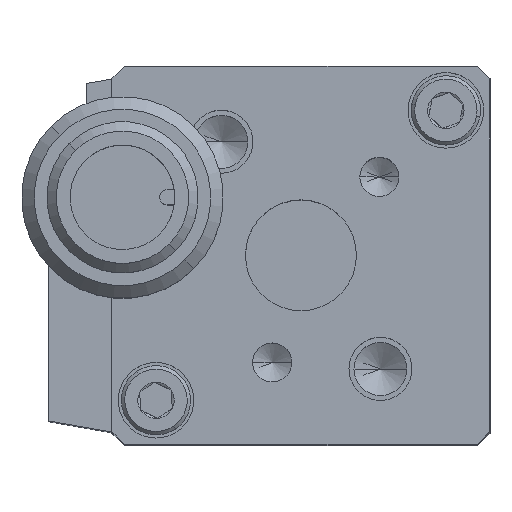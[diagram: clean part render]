
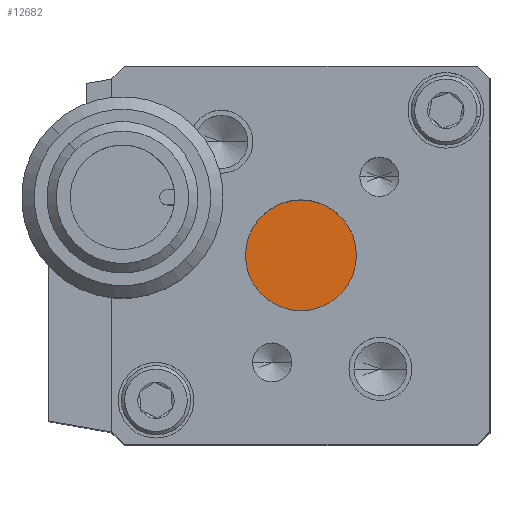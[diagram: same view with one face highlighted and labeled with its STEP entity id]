
A CAD part, top view. The second image highlights one B-rep face of the part: STEP entity #12682.
In plain terms, the highlighted planar face has unit normal (0, 0, 1).
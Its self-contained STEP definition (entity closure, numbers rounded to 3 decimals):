
#1544 = DIRECTION ( 'NONE',  ( 0., 0., -1. ) ) ;
#5225 = VERTEX_POINT ( 'NONE', #10600 ) ;
#10600 = CARTESIAN_POINT ( 'NONE',  ( -64.972, -10.575, 66.567 ) ) ;
#12682 = ADVANCED_FACE ( 'NONE', ( #102032 ), #42950, .F. ) ;
#16490 = DIRECTION ( 'NONE',  ( -1., 0., 0. ) ) ;
#20573 = AXIS2_PLACEMENT_3D ( 'NONE', #57995, #91695, #80702 ) ;
#21892 = VERTEX_POINT ( 'NONE', #109064 ) ;
#22843 = EDGE_CURVE ( 'NONE', #21892, #5225, #101708, .T. ) ;
#32824 = ORIENTED_EDGE ( 'NONE', *, *, #22843, .T. ) ;
#42732 = CIRCLE ( 'NONE', #48097, 4.4 ) ;
#42950 = PLANE ( 'NONE',  #78365 ) ;
#48097 = AXIS2_PLACEMENT_3D ( 'NONE', #60964, #52149, #78099 ) ;
#52149 = DIRECTION ( 'NONE',  ( 0., 0., 1. ) ) ;
#54553 = EDGE_CURVE ( 'NONE', #5225, #21892, #42732, .T. ) ;
#57995 = CARTESIAN_POINT ( 'NONE',  ( -60.572, -10.575, 66.567 ) ) ;
#60964 = CARTESIAN_POINT ( 'NONE',  ( -60.572, -10.575, 66.567 ) ) ;
#68563 = EDGE_LOOP ( 'NONE', ( #32824, #108406 ) ) ;
#75007 = CARTESIAN_POINT ( 'NONE',  ( -60.572, -10.575, 66.567 ) ) ;
#78099 = DIRECTION ( 'NONE',  ( 1., 0., 0. ) ) ;
#78365 = AXIS2_PLACEMENT_3D ( 'NONE', #75007, #1544, #16490 ) ;
#80702 = DIRECTION ( 'NONE',  ( 1., 0., 0. ) ) ;
#91695 = DIRECTION ( 'NONE',  ( 0., 0., 1. ) ) ;
#101708 = CIRCLE ( 'NONE', #20573, 4.4 ) ;
#102032 = FACE_OUTER_BOUND ( 'NONE', #68563, .T. ) ;
#108406 = ORIENTED_EDGE ( 'NONE', *, *, #54553, .T. ) ;
#109064 = CARTESIAN_POINT ( 'NONE',  ( -56.172, -10.575, 66.567 ) ) ;
